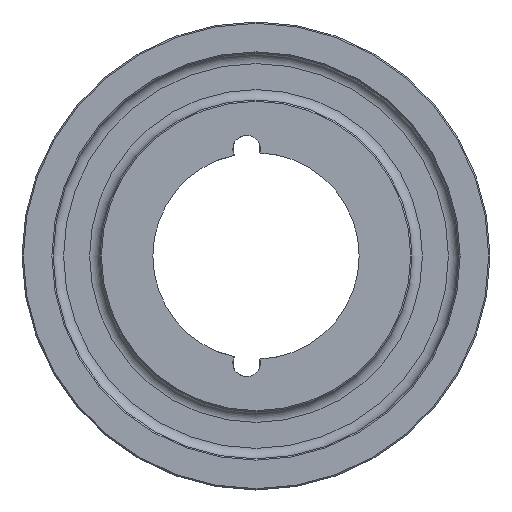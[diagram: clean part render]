
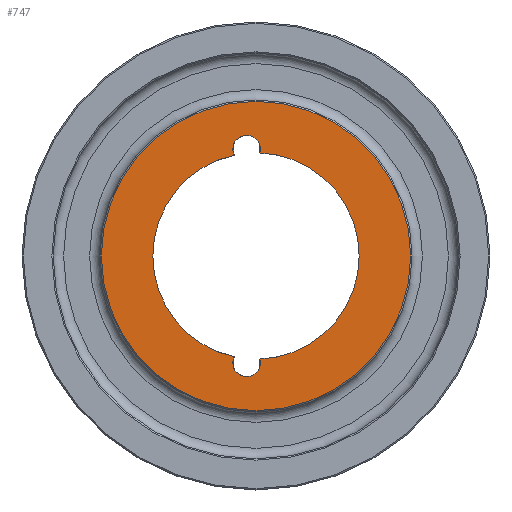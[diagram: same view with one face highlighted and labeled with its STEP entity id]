
A CAD part, left-side view. The second image highlights one B-rep face of the part: STEP entity #747.
In plain terms, the highlighted planar face has unit normal (-1, 0, 0).
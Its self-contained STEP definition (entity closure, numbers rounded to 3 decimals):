
#75=FACE_BOUND('',#266,.T.);
#94=PLANE('',#865);
#163=FACE_OUTER_BOUND('',#265,.T.);
#265=EDGE_LOOP('',(#640));
#266=EDGE_LOOP('',(#641,#642,#643,#644));
#302=CIRCLE('',#774,39.678);
#304=CIRCLE('',#777,5.296);
#306=CIRCLE('',#780,5.296);
#308=CIRCLE('',#783,39.678);
#349=CIRCLE('',#864,59.5);
#379=VERTEX_POINT('',#1237);
#380=VERTEX_POINT('',#1238);
#383=VERTEX_POINT('',#1246);
#385=VERTEX_POINT('',#1262);
#426=VERTEX_POINT('',#1398);
#451=EDGE_CURVE('',#379,#380,#302,.T.);
#455=EDGE_CURVE('',#383,#379,#304,.T.);
#459=EDGE_CURVE('',#380,#385,#306,.T.);
#463=EDGE_CURVE('',#385,#383,#308,.T.);
#504=EDGE_CURVE('',#426,#426,#349,.T.);
#640=ORIENTED_EDGE('',*,*,#504,.T.);
#641=ORIENTED_EDGE('',*,*,#459,.T.);
#642=ORIENTED_EDGE('',*,*,#463,.T.);
#643=ORIENTED_EDGE('',*,*,#455,.T.);
#644=ORIENTED_EDGE('',*,*,#451,.T.);
#747=ADVANCED_FACE('',(#163,#75),#94,.T.);
#774=AXIS2_PLACEMENT_3D('',#1239,#915,#916);
#777=AXIS2_PLACEMENT_3D('',#1247,#923,#924);
#780=AXIS2_PLACEMENT_3D('',#1263,#930,#931);
#783=AXIS2_PLACEMENT_3D('',#1278,#937,#938);
#864=AXIS2_PLACEMENT_3D('',#1399,#1099,#1100);
#865=AXIS2_PLACEMENT_3D('',#1400,#1101,#1102);
#915=DIRECTION('center_axis',(1.,0.,0.));
#916=DIRECTION('ref_axis',(0.,0.211,-0.978));
#923=DIRECTION('center_axis',(1.,0.,0.));
#924=DIRECTION('ref_axis',(0.,-0.961,0.277));
#930=DIRECTION('center_axis',(1.,0.,0.));
#931=DIRECTION('ref_axis',(0.,0.898,-0.44));
#937=DIRECTION('center_axis',(1.,0.,0.));
#938=DIRECTION('ref_axis',(0.,-0.038,0.999));
#1099=DIRECTION('center_axis',(-1.,0.,0.));
#1100=DIRECTION('ref_axis',(0.,0.,1.));
#1101=DIRECTION('center_axis',(-1.,0.,0.));
#1102=DIRECTION('ref_axis',(0.,0.,1.));
#1237=CARTESIAN_POINT('',(-52.355,8.354,49.421));
#1238=CARTESIAN_POINT('',(-52.355,8.354,126.999));
#1239=CARTESIAN_POINT('Origin',(-52.355,0.,88.21));
#1246=CARTESIAN_POINT('',(-52.355,-1.491,48.559));
#1247=CARTESIAN_POINT('Origin',(-52.355,3.597,47.092));
#1262=CARTESIAN_POINT('',(-52.355,-1.491,127.86));
#1263=CARTESIAN_POINT('Origin',(-52.355,3.597,129.328));
#1278=CARTESIAN_POINT('Origin',(-52.355,0.,88.21));
#1398=CARTESIAN_POINT('',(-52.355,0.,147.71));
#1399=CARTESIAN_POINT('Origin',(-52.355,0.,88.21));
#1400=CARTESIAN_POINT('Origin',(-52.355,0.,127.399));
